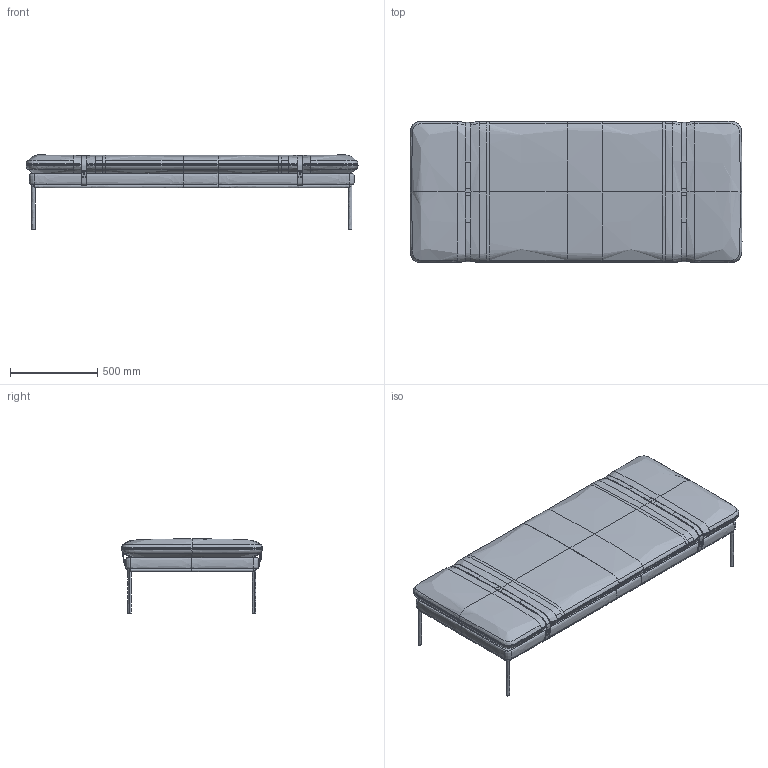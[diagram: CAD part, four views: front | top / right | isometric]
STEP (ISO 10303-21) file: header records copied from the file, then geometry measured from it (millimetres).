
FILE_DESCRIPTION(/* description */ (''),/* implementation_level */ '2;1');
FILE_NAME(/* name */ 'T9K9FT~V',/* time_stamp */ '2018-04-09T11:31:06+02:00',/* author */ (''),/* organization */ (''),/* preprocessor_version */ 'ST-DEVELOPER v15',/* originating_system */ '',/* authorisation */ '');
FILE_SCHEMA (('AUTOMOTIVE_DESIGN'));
Products named in the file (1): Document
Bounding box: 1902.97 x 810.93 x 426.73 mm (x, y, z)
Volume: 236848083.4 mm3; surface area: 7024156.8 mm2
Topology: 7 solids, 17 shells, 769 faces, 1901 edges, 1164 vertices
Faces by surface type: bspline 769
Entity records: 131762 total; most frequent: CARTESIAN_POINT 108298, B_SPLINE_CURVE_WITH_KNOTS 4404, ORIENTED_EDGE 3712, PCURVE 3712, DEFINITIONAL_REPRESENTATION 3712, SURFACE_CURVE 1889, EDGE_CURVE 1889, VERTEX_POINT 1160
